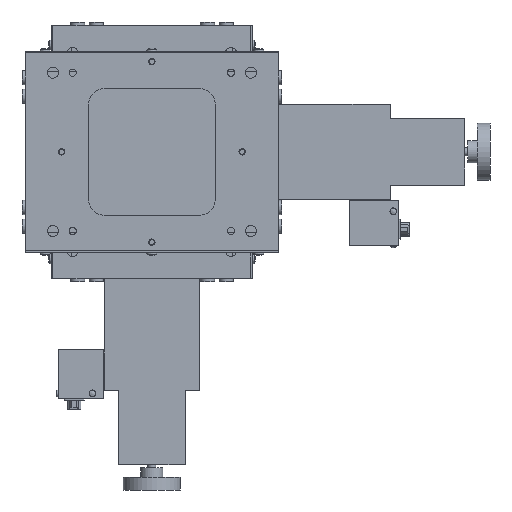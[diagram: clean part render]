
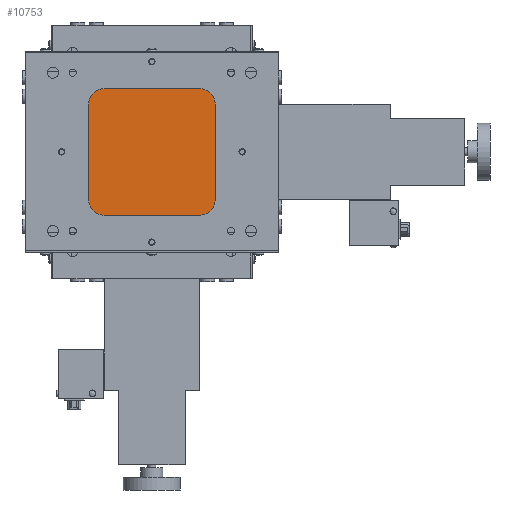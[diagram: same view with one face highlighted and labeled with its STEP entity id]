
A CAD part, front view. The second image highlights one B-rep face of the part: STEP entity #10753.
In plain terms, the highlighted planar face has unit normal (0, -1, 0).
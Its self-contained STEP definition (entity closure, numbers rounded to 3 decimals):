
#807 = DIRECTION ( 'NONE',  ( 0., 0., -1. ) ) ;
#808 = DIRECTION ( 'NONE',  ( 0., -1., 0. ) ) ;
#809 = CARTESIAN_POINT ( 'NONE',  ( 30., 5., -30. ) ) ;
#810 = AXIS2_PLACEMENT_3D ( 'NONE', #809, #808, #807 ) ;
#811 = CIRCLE ( 'NONE', #810, 10. ) ;
#812 = CARTESIAN_POINT ( 'NONE',  ( 40., 5., -30. ) ) ;
#813 = DIRECTION ( 'NONE',  ( 1., 0., 0. ) ) ;
#814 = VECTOR ( 'NONE', #813, 1000. ) ;
#815 = CARTESIAN_POINT ( 'NONE',  ( 30., 5., -40. ) ) ;
#816 = LINE ( 'NONE', #815, #814 ) ;
#983 = CARTESIAN_POINT ( 'NONE',  ( 30., 5., 40. ) ) ;
#984 = DIRECTION ( 'NONE',  ( 0., 0., -1. ) ) ;
#985 = DIRECTION ( 'NONE',  ( 0., -1., 0. ) ) ;
#986 = CARTESIAN_POINT ( 'NONE',  ( 30., 5., 30. ) ) ;
#987 = AXIS2_PLACEMENT_3D ( 'NONE', #986, #985, #984 ) ;
#988 = CIRCLE ( 'NONE', #987, 10. ) ;
#989 = CARTESIAN_POINT ( 'NONE',  ( 40., 5., 30. ) ) ;
#990 = DIRECTION ( 'NONE',  ( 0., 0., 1. ) ) ;
#991 = VECTOR ( 'NONE', #990, 1000. ) ;
#992 = CARTESIAN_POINT ( 'NONE',  ( 40., 5., -30. ) ) ;
#993 = LINE ( 'NONE', #992, #991 ) ;
#1020 = DIRECTION ( 'NONE',  ( -1., 0., 0. ) ) ;
#1021 = VECTOR ( 'NONE', #1020, 1000. ) ;
#1022 = CARTESIAN_POINT ( 'NONE',  ( 30., 5., 40. ) ) ;
#1023 = LINE ( 'NONE', #1022, #1021 ) ;
#1133 = CARTESIAN_POINT ( 'NONE',  ( 30., 5., -40. ) ) ;
#1134 = CARTESIAN_POINT ( 'NONE',  ( -30., 5., -40. ) ) ;
#1135 = DIRECTION ( 'NONE',  ( 0., 0., 1. ) ) ;
#1136 = DIRECTION ( 'NONE',  ( 0., -1., 0. ) ) ;
#1137 = CARTESIAN_POINT ( 'NONE',  ( -30., 5., -30. ) ) ;
#1138 = AXIS2_PLACEMENT_3D ( 'NONE', #1137, #1136, #1135 ) ;
#1139 = CIRCLE ( 'NONE', #1138, 10. ) ;
#1140 = CARTESIAN_POINT ( 'NONE',  ( -40., 5., -30. ) ) ;
#1141 = DIRECTION ( 'NONE',  ( 0., 0., -1. ) ) ;
#1142 = VECTOR ( 'NONE', #1141, 1000. ) ;
#1143 = CARTESIAN_POINT ( 'NONE',  ( -40., 5., -30. ) ) ;
#1144 = LINE ( 'NONE', #1143, #1142 ) ;
#1145 = CARTESIAN_POINT ( 'NONE',  ( -40., 5., 30. ) ) ;
#1146 = CARTESIAN_POINT ( 'NONE',  ( -30., 5., 40. ) ) ;
#1147 = DIRECTION ( 'NONE',  ( 0., 0., -1. ) ) ;
#1148 = DIRECTION ( 'NONE',  ( 0., -1., 0. ) ) ;
#1149 = CARTESIAN_POINT ( 'NONE',  ( -30., 5., 30. ) ) ;
#1150 = AXIS2_PLACEMENT_3D ( 'NONE', #1149, #1148, #1147 ) ;
#1151 = CIRCLE ( 'NONE', #1150, 10. ) ;
#1152 = DIRECTION ( 'NONE',  ( 0., 0., -1. ) ) ;
#1153 = DIRECTION ( 'NONE',  ( 0., -1., 0. ) ) ;
#1154 = CARTESIAN_POINT ( 'NONE',  ( -30., 5., 30. ) ) ;
#1155 = AXIS2_PLACEMENT_3D ( 'NONE', #1154, #1153, #1152 ) ;
#1156 = PLANE ( 'NONE',  #1155 ) ;
#1193 = FACE_OUTER_BOUND ( 'NONE', #10754, .T. ) ;
#10544 = EDGE_CURVE ( 'NONE', #10571, #10758, #1023, .T. ) ;
#10561 = ORIENTED_EDGE ( 'NONE', *, *, #10562, .T. ) ;
#10562 = EDGE_CURVE ( 'NONE', #10765, #10766, #816, .T. ) ;
#10563 = ORIENTED_EDGE ( 'NONE', *, *, #10564, .T. ) ;
#10564 = EDGE_CURVE ( 'NONE', #10766, #10565, #811, .T. ) ;
#10565 = VERTEX_POINT ( 'NONE', #812 ) ;
#10566 = ORIENTED_EDGE ( 'NONE', *, *, #10567, .T. ) ;
#10567 = EDGE_CURVE ( 'NONE', #10565, #10568, #993, .T. ) ;
#10568 = VERTEX_POINT ( 'NONE', #989 ) ;
#10569 = ORIENTED_EDGE ( 'NONE', *, *, #10570, .T. ) ;
#10570 = EDGE_CURVE ( 'NONE', #10568, #10571, #988, .T. ) ;
#10571 = VERTEX_POINT ( 'NONE', #983 ) ;
#10572 = ORIENTED_EDGE ( 'NONE', *, *, #10544, .T. ) ;
#10753 = ADVANCED_FACE ( 'NONE', ( #1193 ), #1156, .T. ) ;
#10754 = EDGE_LOOP ( 'NONE', ( #10755, #10760, #10763, #10561, #10563, #10566, #10569, #10572 ) ) ;
#10755 = ORIENTED_EDGE ( 'NONE', *, *, #10756, .T. ) ;
#10756 = EDGE_CURVE ( 'NONE', #10758, #10759, #1151, .T. ) ;
#10758 = VERTEX_POINT ( 'NONE', #1146 ) ;
#10759 = VERTEX_POINT ( 'NONE', #1145 ) ;
#10760 = ORIENTED_EDGE ( 'NONE', *, *, #10761, .T. ) ;
#10761 = EDGE_CURVE ( 'NONE', #10759, #10762, #1144, .T. ) ;
#10762 = VERTEX_POINT ( 'NONE', #1140 ) ;
#10763 = ORIENTED_EDGE ( 'NONE', *, *, #10764, .T. ) ;
#10764 = EDGE_CURVE ( 'NONE', #10762, #10765, #1139, .T. ) ;
#10765 = VERTEX_POINT ( 'NONE', #1134 ) ;
#10766 = VERTEX_POINT ( 'NONE', #1133 ) ;
